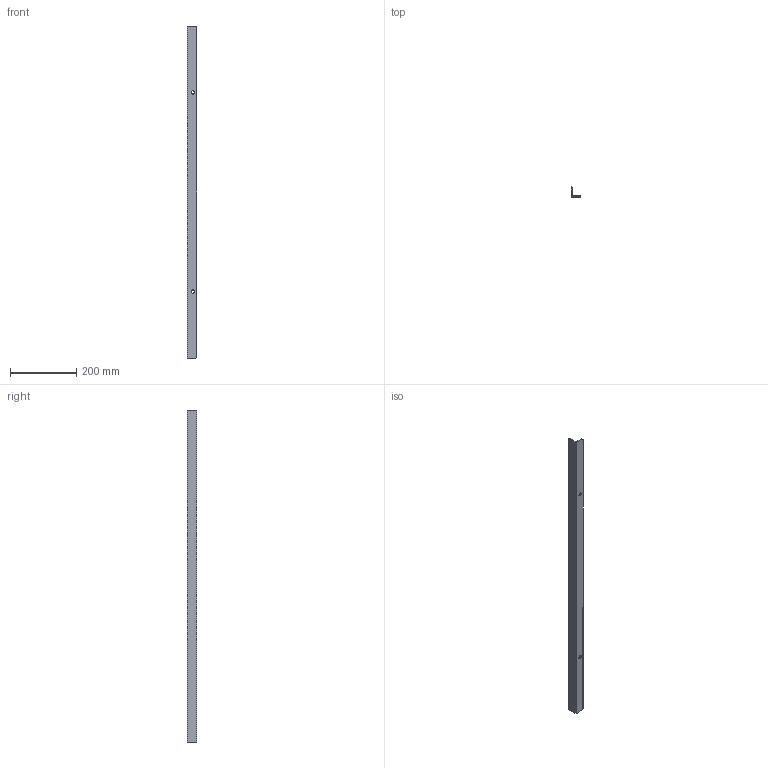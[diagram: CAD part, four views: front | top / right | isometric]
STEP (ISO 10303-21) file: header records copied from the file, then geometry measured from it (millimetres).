
FILE_DESCRIPTION (( 'STEP AP203' ), '1' );
FILE_NAME ('A型.STEP', '2024-02-01T01:53:12', ( '' ), ( '' ), 'SwSTEP 2.0', 'SolidWorks 2021', '' );
FILE_SCHEMA (( 'CONFIG_CONTROL_DESIGN' ));
Length unit declared in the file: millimetre
Products named in the file (1): A型
Bounding box: 30 x 30 x 1000 mm (x, y, z)
Volume: 172178.4 mm3; surface area: 116727 mm2
Topology: 1 solids, 1 shells, 17 faces, 45 edges, 30 vertices
Faces by surface type: plane 10, cylinder 7
Entity records: 616 total; most frequent: CARTESIAN_POINT 99, DIRECTION 91, ORIENTED_EDGE 90, EDGE_CURVE 45, VECTOR 31, LINE 31, AXIS2_PLACEMENT_3D 30, VERTEX_POINT 30
